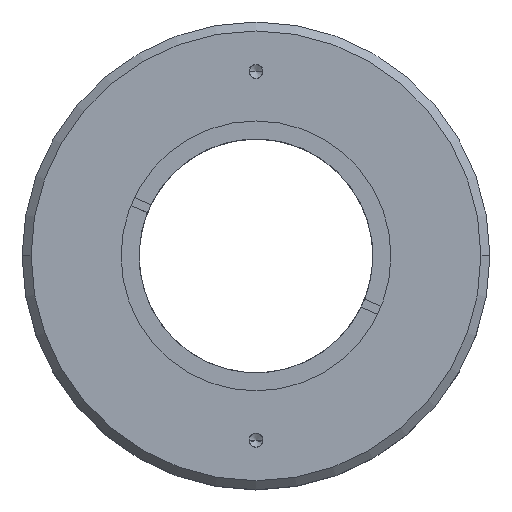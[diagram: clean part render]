
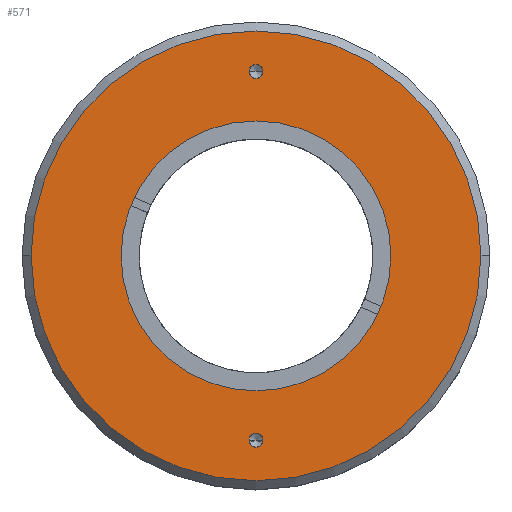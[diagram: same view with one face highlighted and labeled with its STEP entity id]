
A CAD part, top view. The second image highlights one B-rep face of the part: STEP entity #571.
In plain terms, the highlighted planar face has unit normal (0, 0, 1).
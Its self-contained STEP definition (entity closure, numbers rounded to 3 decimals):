
#41 = DIRECTION ( 'NONE',  ( 0., 0., 1. ) ) ;
#112 = CIRCLE ( 'NONE', #448, 0.775 ) ;
#247 = DIRECTION ( 'NONE',  ( 0., 0., 1. ) ) ;
#278 = CARTESIAN_POINT ( 'NONE',  ( -7.344, -22.793, 59.5 ) ) ;
#297 = CIRCLE ( 'NONE', #2552, 25. ) ;
#448 = AXIS2_PLACEMENT_3D ( 'NONE', #4674, #1495, #2524 ) ;
#547 = FACE_BOUND ( 'NONE', #2719, .T. ) ;
#571 = ADVANCED_FACE ( 'NONE', ( #1609, #547, #5455, #4887 ), #2173, .T. ) ;
#669 = CARTESIAN_POINT ( 'NONE',  ( -8.119, -2.293, 59.5 ) ) ;
#916 = ORIENTED_EDGE ( 'NONE', *, *, #5010, .F. ) ;
#976 = EDGE_LOOP ( 'NONE', ( #5319, #2000 ) ) ;
#1007 = VERTEX_POINT ( 'NONE', #2424 ) ;
#1054 = CARTESIAN_POINT ( 'NONE',  ( -8.894, -22.793, 59.5 ) ) ;
#1124 = DIRECTION ( 'NONE',  ( 1., 0., 0. ) ) ;
#1281 = DIRECTION ( 'NONE',  ( 0., 0., 1. ) ) ;
#1495 = DIRECTION ( 'NONE',  ( 0., 0., 1. ) ) ;
#1584 = CARTESIAN_POINT ( 'NONE',  ( -8.119, -2.293, 59.5 ) ) ;
#1598 = VERTEX_POINT ( 'NONE', #3047 ) ;
#1609 = FACE_BOUND ( 'NONE', #5371, .T. ) ;
#1612 = EDGE_LOOP ( 'NONE', ( #2515, #6559 ) ) ;
#1772 = DIRECTION ( 'NONE',  ( 1., 0., 0. ) ) ;
#1852 = CARTESIAN_POINT ( 'NONE',  ( -8.119, -2.293, 59.5 ) ) ;
#1874 = CIRCLE ( 'NONE', #6625, 15. ) ;
#1947 = CARTESIAN_POINT ( 'NONE',  ( -7.344, 18.207, 59.5 ) ) ;
#2000 = ORIENTED_EDGE ( 'NONE', *, *, #6934, .T. ) ;
#2173 = PLANE ( 'NONE',  #6981 ) ;
#2408 = DIRECTION ( 'NONE',  ( 1., 0., 0. ) ) ;
#2424 = CARTESIAN_POINT ( 'NONE',  ( -23.119, -2.293, 59.5 ) ) ;
#2442 = CIRCLE ( 'NONE', #6402, 25. ) ;
#2473 = CIRCLE ( 'NONE', #6216, 0.775 ) ;
#2515 = ORIENTED_EDGE ( 'NONE', *, *, #4414, .F. ) ;
#2524 = DIRECTION ( 'NONE',  ( 1., 0., 0. ) ) ;
#2532 = CARTESIAN_POINT ( 'NONE',  ( 16.881, -2.293, 59.5 ) ) ;
#2552 = AXIS2_PLACEMENT_3D ( 'NONE', #1584, #3780, #4789 ) ;
#2664 = AXIS2_PLACEMENT_3D ( 'NONE', #4547, #3370, #6619 ) ;
#2719 = EDGE_LOOP ( 'NONE', ( #3320, #3531 ) ) ;
#2761 = ORIENTED_EDGE ( 'NONE', *, *, #5830, .F. ) ;
#2856 = EDGE_CURVE ( 'NONE', #5702, #5193, #112, .T. ) ;
#2985 = VERTEX_POINT ( 'NONE', #5979 ) ;
#3047 = CARTESIAN_POINT ( 'NONE',  ( -8.894, 18.207, 59.5 ) ) ;
#3320 = ORIENTED_EDGE ( 'NONE', *, *, #3603, .F. ) ;
#3370 = DIRECTION ( 'NONE',  ( 0., 0., 1. ) ) ;
#3482 = CIRCLE ( 'NONE', #3689, 0.775 ) ;
#3531 = ORIENTED_EDGE ( 'NONE', *, *, #2856, .F. ) ;
#3603 = EDGE_CURVE ( 'NONE', #5193, #5702, #2473, .T. ) ;
#3689 = AXIS2_PLACEMENT_3D ( 'NONE', #4925, #5959, #1772 ) ;
#3780 = DIRECTION ( 'NONE',  ( 0., 0., 1. ) ) ;
#4028 = DIRECTION ( 'NONE',  ( 1., 0., 0. ) ) ;
#4182 = EDGE_CURVE ( 'NONE', #2985, #5105, #297, .T. ) ;
#4347 = CARTESIAN_POINT ( 'NONE',  ( 6.881, -2.293, 59.5 ) ) ;
#4414 = EDGE_CURVE ( 'NONE', #4574, #1007, #1874, .T. ) ;
#4498 = CIRCLE ( 'NONE', #2664, 0.775 ) ;
#4547 = CARTESIAN_POINT ( 'NONE',  ( -8.119, 18.207, 59.5 ) ) ;
#4574 = VERTEX_POINT ( 'NONE', #4347 ) ;
#4674 = CARTESIAN_POINT ( 'NONE',  ( -8.119, -22.793, 59.5 ) ) ;
#4680 = DIRECTION ( 'NONE',  ( 0., 0., 1. ) ) ;
#4719 = CIRCLE ( 'NONE', #5393, 15. ) ;
#4789 = DIRECTION ( 'NONE',  ( 1., 0., 0. ) ) ;
#4887 = FACE_BOUND ( 'NONE', #1612, .T. ) ;
#4925 = CARTESIAN_POINT ( 'NONE',  ( -8.119, 18.207, 59.5 ) ) ;
#5010 = EDGE_CURVE ( 'NONE', #5941, #1598, #4498, .T. ) ;
#5079 = EDGE_CURVE ( 'NONE', #1007, #4574, #4719, .T. ) ;
#5105 = VERTEX_POINT ( 'NONE', #2532 ) ;
#5193 = VERTEX_POINT ( 'NONE', #278 ) ;
#5319 = ORIENTED_EDGE ( 'NONE', *, *, #4182, .T. ) ;
#5371 = EDGE_LOOP ( 'NONE', ( #916, #2761 ) ) ;
#5393 = AXIS2_PLACEMENT_3D ( 'NONE', #669, #6695, #1124 ) ;
#5455 = FACE_OUTER_BOUND ( 'NONE', #976, .T. ) ;
#5702 = VERTEX_POINT ( 'NONE', #1054 ) ;
#5748 = CARTESIAN_POINT ( 'NONE',  ( -8.119, -22.793, 59.5 ) ) ;
#5775 = DIRECTION ( 'NONE',  ( 1., 0., 0. ) ) ;
#5778 = CARTESIAN_POINT ( 'NONE',  ( -8.119, -2.293, 59.5 ) ) ;
#5830 = EDGE_CURVE ( 'NONE', #1598, #5941, #3482, .T. ) ;
#5941 = VERTEX_POINT ( 'NONE', #1947 ) ;
#5959 = DIRECTION ( 'NONE',  ( 0., 0., 1. ) ) ;
#5979 = CARTESIAN_POINT ( 'NONE',  ( -33.119, -2.293, 59.5 ) ) ;
#6216 = AXIS2_PLACEMENT_3D ( 'NONE', #5748, #4680, #5775 ) ;
#6402 = AXIS2_PLACEMENT_3D ( 'NONE', #1852, #1281, #4028 ) ;
#6500 = CARTESIAN_POINT ( 'NONE',  ( -8.119, -2.293, 59.5 ) ) ;
#6543 = DIRECTION ( 'NONE',  ( 1., 0., 0. ) ) ;
#6559 = ORIENTED_EDGE ( 'NONE', *, *, #5079, .F. ) ;
#6619 = DIRECTION ( 'NONE',  ( 1., 0., 0. ) ) ;
#6625 = AXIS2_PLACEMENT_3D ( 'NONE', #5778, #247, #2408 ) ;
#6695 = DIRECTION ( 'NONE',  ( 0., 0., 1. ) ) ;
#6934 = EDGE_CURVE ( 'NONE', #5105, #2985, #2442, .T. ) ;
#6981 = AXIS2_PLACEMENT_3D ( 'NONE', #6500, #41, #6543 ) ;
